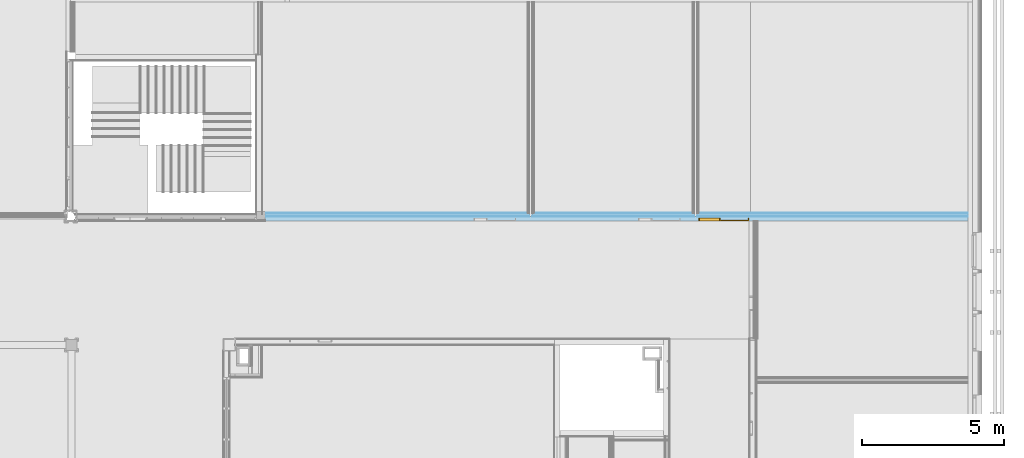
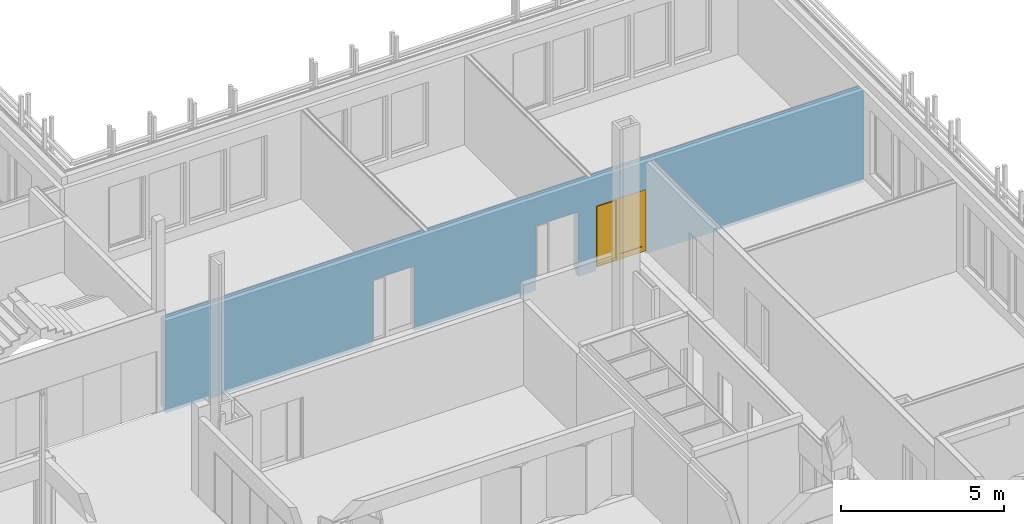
# One storey, part 68 of 139: 1 door, 3 openings, 1 element without a shape of its own, plus 7 elements that do not belong to this part.
"""IFC2X3 building model written with IfcOpenShell, lengths in millimetres."""

from ifc_helpers import new_model, entity, si_unit, converted_unit, derived_unit, money_unit, direction, frame, origin_with_axes, place, context, subcontext, project, spatial, open_shell, faceted_brep, surface_model, material, type_object, element, fill, aggregate, save


model = new_model("IFC2X3")

# Units and contexts
model_context = context("Model", 3, precision=0.01, world=origin_with_axes(), true_north=direction((0.0, 1.0)))
body_context = subcontext(model_context, "Body", "Model", "MODEL_VIEW")
ifc_project = project(units=[si_unit("LENGTHUNIT", "METRE", prefix="MILLI"), si_unit("AREAUNIT", "SQUARE_METRE"), si_unit("VOLUMEUNIT", "CUBIC_METRE"), converted_unit("PLANEANGLEUNIT", "DEGREE", entity("IfcPlaneAngleMeasure", 0.0174532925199), si_unit("PLANEANGLEUNIT", "RADIAN"), dimensions=[0, 0, 0, 0, 0, 0, 0]), money_unit("EUR"), converted_unit("TIMEUNIT", "Year", entity("IfcTimeMeasure", 31556926.0), si_unit("TIMEUNIT", "SECOND"), dimensions=[0, 0, 1, 0, 0, 0, 0]), si_unit("MASSUNIT", "GRAM", prefix="KILO"), si_unit("THERMODYNAMICTEMPERATUREUNIT", "DEGREE_CELSIUS"), si_unit("LUMINOUSINTENSITYUNIT", "LUMEN"), si_unit("ENERGYUNIT", "JOULE", prefix="MEGA"), derived_unit("THERMALCONDUCTANCEUNIT", [(si_unit("POWERUNIT", "WATT"), 1), (si_unit("LENGTHUNIT", "METRE"), -1), (si_unit("THERMODYNAMICTEMPERATUREUNIT", "KELVIN"), -1)]), derived_unit("SPECIFICHEATCAPACITYUNIT", [(si_unit("ENERGYUNIT", "JOULE"), 1), (si_unit("MASSUNIT", "GRAM", prefix="KILO"), -1), (si_unit("THERMODYNAMICTEMPERATUREUNIT", "KELVIN"), -1)]), derived_unit("MASSDENSITYUNIT", [(si_unit("MASSUNIT", "GRAM", prefix="KILO"), 1), (si_unit("VOLUMEUNIT", "CUBIC_METRE"), -1)])], contexts=[model_context])

# Site, building, storey
site_placement = place(None, origin_with_axes())
site = spatial("IfcSite", under=ifc_project, at=site_placement, Name="Kolde pst 67a", CompositionType="ELEMENT")
building_placement = place(site_placement, origin_with_axes())
building = spatial("IfcBuilding", under=site, at=building_placement, Name="Riigigümnaasium", CompositionType="ELEMENT")
storey_placement = place(building_placement, frame((0.0, 0.0, 4600.0), z_axis=(0.0, 0.0, 1.0), x_axis=(1.0, 0.0, 0.0)))
storey = spatial("IfcBuildingStorey", under=building, at=storey_placement, Name="2. korrus", CompositionType="ELEMENT", Elevation=4600.0)

# Door
door_style = type_object("IfcDoorStyle", Name="Door with Sidelight on Side 2 25", ConstructionType="NOTDEFINED", OperationType="SINGLE_SWING_LEFT", ParameterTakesPrecedence=False, Sizeable=False)
wall_placement = place(storey_placement, frame((59580.0567695, 28589.9996998, -130.0), z_axis=(0.0, 0.0, 1.0), x_axis=(1.0, 0.0, 0.0)))
opening_2_placement = place(wall_placement, frame((16119.9450194, 0.0, 130.0), z_axis=(0.0, 0.0, 1.0), x_axis=(1.0, 0.0, 0.0)))
door_placement = place(opening_2_placement, frame((890.0, 0.0, 0.0), z_axis=(0.0, 0.0, 1.0), x_axis=(-1.0, 0.0, 0.0)))
door = element("IfcDoor", 1, at=door_placement, inside=storey, type_object=door_style, Name="Siseuks", ObjectType="DOOR", OverallHeight=2300.0, OverallWidth=1780.0, context=body_context, shape_type="SurfaceModel", body=[
    faceted_brep([(1780.0, 0.0, 0.0), (1780.0, -115.0, 0.0), (1740.0, -115.0, 0.0), (1740.0, 0.0, 0.0), (1780.0, 0.0, 2260.0), (1780.0, -115.0, 2260.0), (1740.0, -115.0, 2260.0), (1740.0, -115.0, 40.0), (1740.0, 0.0, 40.0), (1740.0, 0.0, 2260.0)], [[[0, 1, 2, 3]], [[4, 5, 1, 0]], [[1, 5, 6, 7, 2]], [[3, 2, 7, 8]], [[0, 3, 8, 9, 4]], [[9, 6, 5, 4]], [[8, 7, 6, 9]]]),
    faceted_brep([(999.953334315, -40.0, 0.0), (999.953334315, -115.0, 0.0), (999.953334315, -115.0, 2260.0), (999.953334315, -40.0, 2260.0), (1011.95333432, -40.0, 0.0), (1011.95333432, 0.0, 0.0), (1039.95333432, 0.0, 0.0), (1039.95333432, -115.0, 0.0), (1039.95333432, -115.0, 40.0), (1039.95333432, -115.0, 2260.0), (1011.95333432, -40.0, 2260.0), (1039.95333432, 0.0, 2260.0), (1011.95333432, 0.0, 2260.0), (1039.95333432, 0.0, 40.0)], [[[0, 1, 2, 3]], [[4, 5, 6, 7, 1, 0]], [[7, 8, 9, 2, 1]], [[10, 3, 2, 9, 11, 12]], [[10, 4, 0, 3]], [[12, 5, 4, 10]], [[12, 11, 13, 6, 5]], [[6, 13, 8, 7]], [[13, 11, 9, 8]]]),
    faceted_brep([(1740.0, 0.0, 40.0), (1740.0, -115.0, 40.0), (1740.0, -115.0, 0.0), (1740.0, 0.0, 0.0), (1039.95333432, 0.0, 40.0), (1039.95333432, -115.0, 40.0), (1039.95333432, -115.0, 0.0), (1039.95333432, 0.0, 0.0)], [[[0, 1, 2, 3]], [[4, 5, 1, 0]], [[1, 5, 6, 2]], [[3, 2, 6, 7]], [[0, 3, 7, 4]], [[7, 6, 5, 4]]]),
    faceted_brep([(28.0, -40.0, 2260.0), (28.0, 0.0, 2260.0), (0.0, 0.0, 2260.0), (0.0, -115.0, 2260.0), (40.0, -115.0, 2260.0), (40.0, -40.0, 2260.0), (28.0, -40.0, 0.0), (28.0, 0.0, 0.0), (0.0, 0.0, 0.0), (0.0, -115.0, 0.0), (40.0, -115.0, 0.0), (40.0, -40.0, 0.0)], [[[0, 1, 2, 3, 4, 5]], [[0, 6, 7, 1]], [[7, 8, 2, 1]], [[2, 8, 9, 3]], [[3, 9, 10, 4]], [[5, 4, 10, 11]], [[5, 11, 6, 0]], [[6, 11, 10, 9, 8, 7]]]),
    faceted_brep([(1011.95333432, 0.0, 2272.0), (28.0, 0.0, 2272.0), (28.0, 0.0, 2260.0), (0.0, 0.0, 2260.0), (0.0, 0.0, 2300.0), (1780.0, 0.0, 2300.0), (1780.0, 0.0, 2260.0), (1740.0, 0.0, 2260.0), (1039.95333432, 0.0, 2260.0), (1011.95333432, 0.0, 2260.0), (1011.95333432, -40.0, 2272.0), (28.0, -40.0, 2272.0), (28.0, -40.0, 2260.0), (40.0, -40.0, 2260.0), (40.0, -115.0, 2260.0), (0.0, -115.0, 2260.0), (0.0, -115.0, 2300.0), (1780.0, -115.0, 2300.0), (1780.0, -115.0, 2260.0), (1740.0, -115.0, 2260.0), (1039.95333432, -115.0, 2260.0), (1011.95333432, -40.0, 2260.0), (999.953334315, -115.0, 2260.0)], [[[0, 1, 2, 3, 4, 5, 6, 7, 8, 9]], [[0, 10, 11, 1]], [[1, 11, 12, 2]], [[12, 13, 14, 15, 3, 2]], [[4, 3, 15, 16]], [[5, 4, 16, 17]], [[6, 5, 17, 18]], [[7, 6, 18, 19]], [[8, 7, 19, 20]], [[21, 9, 8, 20, 22, 14, 13]], [[9, 21, 10, 0]], [[12, 11, 10, 21, 13]], [[14, 22, 20, 19, 18, 17, 16, 15]]]),
    faceted_brep([(28.0, 0.0, 200.0), (128.0, 0.0, 200.0), (128.0, -40.0, 200.0), (28.0, -40.0, 200.0), (28.0, 0.0, 2172.0), (128.0, 0.0, 2172.0), (128.0, -40.0, 2172.0), (28.0, -40.0, 2172.0)], [[[0, 1, 2, 3]], [[0, 4, 5, 1]], [[1, 5, 6, 2]], [[3, 2, 6, 7]], [[4, 0, 3, 7]], [[5, 4, 7, 6]]]),
    faceted_brep([(1011.95333432, 0.0, 200.0), (1011.95333432, 0.0, 2172.0), (1011.95333432, -40.0, 2172.0), (1011.95333432, -40.0, 200.0), (911.953334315, 0.0, 200.0), (911.953334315, 0.0, 2172.0), (911.953334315, -40.0, 2172.0), (911.953334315, -40.0, 200.0)], [[[0, 1, 2, 3]], [[0, 4, 5, 1]], [[1, 5, 6, 2]], [[3, 2, 6, 7]], [[4, 0, 3, 7]], [[5, 4, 7, 6]]]),
    faceted_brep([(28.0, 0.0, 0.0), (1011.95333432, 0.0, 0.0), (1011.95333432, -40.0, 0.0), (28.0, -40.0, 0.0), (28.0, 0.0, 200.0), (128.0, 0.0, 200.0), (911.953334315, 0.0, 200.0), (1011.95333432, 0.0, 200.0), (1011.95333432, -40.0, 200.0), (911.953334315, -40.0, 200.0), (128.0, -40.0, 200.0), (28.0, -40.0, 200.0)], [[[0, 1, 2, 3]], [[0, 4, 5, 6, 7, 1]], [[1, 7, 8, 2]], [[3, 2, 8, 9, 10, 11]], [[4, 0, 3, 11]], [[5, 4, 11, 10]], [[6, 5, 10, 9]], [[7, 6, 9, 8]]]),
    faceted_brep([(28.0, 0.0, 2272.0), (28.0, 0.0, 2172.0), (28.0, -40.0, 2172.0), (28.0, -40.0, 2272.0), (1011.95333432, 0.0, 2272.0), (1011.95333432, 0.0, 2172.0), (911.953334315, 0.0, 2172.0), (128.0, 0.0, 2172.0), (128.0, -40.0, 2172.0), (911.953334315, -40.0, 2172.0), (1011.95333432, -40.0, 2172.0), (1011.95333432, -40.0, 2272.0)], [[[0, 1, 2, 3]], [[0, 4, 5, 6, 7, 1]], [[1, 7, 8, 2]], [[3, 2, 8, 9, 10, 11]], [[4, 0, 3, 11]], [[5, 4, 11, 10]], [[6, 5, 10, 9]], [[7, 6, 9, 8]]]),
    surface_model("IfcShellBasedSurfaceModel", [(128.0, -14.0, 200.0), (128.0, -14.0, 2172.0), (911.953334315, -14.0, 2172.0), (911.953334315, -14.0, 200.0)], [open_shell([[[0, 1, 2, 3]]])]),
    surface_model("IfcShellBasedSurfaceModel", [(128.0, -26.0, 200.0), (911.953334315, -26.0, 200.0), (911.953334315, -26.0, 2172.0), (128.0, -26.0, 2172.0)], [open_shell([[[0, 1, 2, 3]]])]),
    surface_model("IfcShellBasedSurfaceModel", [(1740.0, -91.0, 40.0), (1039.95333432, -91.0, 40.0), (1039.95333432, -91.0, 2260.0), (1740.0, -91.0, 2260.0)], [open_shell([[[0, 1, 2, 3]]])]),
    surface_model("IfcShellBasedSurfaceModel", [(1740.0, -103.0, 40.0), (1740.0, -103.0, 2260.0), (1039.95333432, -103.0, 2260.0), (1039.95333432, -103.0, 40.0)], [open_shell([[[0, 1, 2, 3]]])]),
])

# Wall, openings
wall_type = type_object("IfcWallType", Name="SS-CLT-16/1_vill75+krohv 52 dB 300", PredefinedType="NOTDEFINED")
wall = element("IfcWall", 2, at=wall_placement, inside=storey, type_object=wall_type, Name="Sisesein")
opening_1_placement = place(wall_placement, frame((13859.9892241, 0.0, 130.0), z_axis=(0.0, 0.0, 1.0), x_axis=(1.0, 0.0, 0.0)))
element("IfcOpeningElement", 3, at=opening_1_placement, cuts=wall, Name="Siseuks", context=body_context, shape_type="Brep", body=[
    faceted_brep([(750.0, -600.0, 2300.0), (750.0, -600.0, 0.0), (750.0, 300.0, 0.0), (750.0, 300.0, 2300.0), (-750.0, -600.0, 2300.0), (-750.0, -600.0, 0.0), (-750.0, 300.0, 0.0), (-750.0, 300.0, 2300.0)], [[[0, 1, 2, 3]], [[0, 4, 5, 1]], [[1, 5, 6, 2]], [[3, 2, 6, 7]], [[4, 0, 3, 7]], [[5, 4, 7, 6]]]),
])
opening_2 = element("IfcOpeningElement", 4, at=opening_2_placement, cuts=wall, Name="Siseuks", context=body_context, shape_type="Brep", body=[
    faceted_brep([(890.0, -600.0, 2300.0), (890.0, -600.0, 0.0), (890.0, 300.0, 0.0), (890.0, 300.0, 2300.0), (-890.0, -600.0, 2300.0), (-890.0, -600.0, 0.0), (-890.0, 300.0, 0.0), (-890.0, 300.0, 2300.0)], [[[0, 1, 2, 3]], [[0, 4, 5, 1]], [[1, 5, 6, 2]], [[3, 2, 6, 7]], [[4, 0, 3, 7]], [[5, 4, 7, 6]]]),
])

fill(opening_2, door)

# Opening
opening_3_placement = place(wall_placement, frame((8069.93597543, 0.0, 130.0), z_axis=(0.0, 0.0, 1.0), x_axis=(1.0, 0.0, 0.0)))
element("IfcOpeningElement", 5, at=opening_3_placement, cuts=wall, Name="Siseuks", context=body_context, shape_type="Brep", body=[
    faceted_brep([(750.0, -600.0, 2300.0), (750.0, -600.0, 0.0), (750.0, 300.0, 0.0), (750.0, 300.0, 2300.0), (-750.0, -600.0, 2300.0), (-750.0, -600.0, 0.0), (-750.0, 300.0, 0.0), (-750.0, 300.0, 2300.0)], [[[0, 1, 2, 3]], [[0, 4, 5, 1]], [[1, 5, 6, 2]], [[3, 2, 6, 7]], [[4, 0, 3, 7]], [[5, 4, 7, 6]]]),
])

# Building element part
ifc_material_1 = material(Name="_VIIMISTLUSKIHT - viimistlus vastavalt SA osale")
building_element_part_1_placement = place(wall_placement, origin_with_axes())
building_element_part_1 = element("IfcBuildingElementPart", 6, at=building_element_part_1_placement, material=ifc_material_1, Name="_VIIMISTLUSKIHT - viimistlus vastavalt SA osale", context=body_context, shape_type="Brep", body=[
    faceted_brep([(13109.9892241, 300.0, 2430.0), (13109.9892241, 300.0, 130.0), (9449.94161294, 300.0, 130.0), (9449.94161294, 300.0, 3450.0), (15029.9892602, 300.0, 3450.0), (15029.9892602, 300.0, 130.0), (14609.9892241, 300.0, 130.0), (14609.9892241, 300.0, 2430.0), (13109.9892241, 290.0, 2430.0), (13109.9892241, 290.0, 130.0), (9449.94161294, 290.0, 130.0), (9449.94161294, 290.0, 3450.0), (15029.9892602, 290.0, 3450.0), (15029.9892602, 290.0, 130.0), (14609.9892241, 290.0, 130.0), (14609.9892241, 290.0, 2430.0)], [[[0, 1, 2, 3, 4, 5, 6, 7]], [[1, 0, 8, 9]], [[1, 9, 10, 2]], [[3, 2, 10, 11]], [[4, 3, 11, 12]], [[12, 13, 5, 4]], [[14, 6, 5, 13]], [[7, 6, 14, 15]], [[0, 7, 15, 8]], [[15, 14, 13, 12, 11, 10, 9, 8]]]),
    faceted_brep([(7319.93597543, 300.0, 2430.0), (7319.93597543, 300.0, 130.0), (0.0, 300.0, 130.0), (0.0, 300.0, 3450.0), (9239.94161294, 300.0, 3450.0), (9239.94161294, 300.0, 130.0), (8819.93597543, 300.0, 130.0), (8819.93597543, 300.0, 2430.0), (7319.93597543, 290.0, 2430.0), (7319.93597543, 290.0, 130.0), (0.0, 290.0, 130.0), (0.0, 290.0, 3450.0), (9239.94161294, 290.0, 3450.0), (9239.94161294, 290.0, 130.0), (8819.93597543, 290.0, 130.0), (8819.93597543, 290.0, 2430.0)], [[[0, 1, 2, 3, 4, 5, 6, 7]], [[1, 0, 8, 9]], [[1, 9, 10, 2]], [[3, 2, 10, 11]], [[4, 3, 11, 12]], [[12, 13, 5, 4]], [[14, 6, 5, 13]], [[7, 6, 14, 15]], [[0, 7, 15, 8]], [[15, 14, 13, 12, 11, 10, 9, 8]]]),
    faceted_brep([(17009.9450194, 300.0, 2430.0), (15239.9892602, 300.0, 2430.0), (15239.9892602, 300.0, 3450.0), (17069.9380539, 300.0, 3450.0), (17069.9380539, 300.0, 3436.9), (24699.9425584, 300.0, 3436.9), (24699.9425584, 300.0, 130.0), (17009.9450194, 300.0, 130.0), (17009.9450194, 290.0, 2430.0), (15239.9892602, 290.0, 2430.0), (15239.9892602, 290.0, 3450.0), (17069.9380539, 290.0, 3450.0), (17069.9380539, 290.0, 3436.9), (24699.9425584, 290.0, 3436.9), (24699.9425584, 290.0, 130.0), (17009.9450194, 290.0, 130.0)], [[[0, 1, 2, 3, 4, 5, 6, 7]], [[1, 0, 8, 9]], [[1, 9, 10, 2]], [[3, 2, 10, 11]], [[11, 12, 4, 3]], [[5, 4, 12, 13]], [[13, 14, 6, 5]], [[15, 7, 6, 14]], [[0, 7, 15, 8]], [[8, 15, 14, 13, 12, 11, 10, 9]]]),
])

ifc_material_2 = material(Name="_PLAATMATERJAL - tuletõkkekipsplaat, Knauf Red GKF või samaväärne")
building_element_part_2_placement = place(wall_placement, origin_with_axes())
building_element_part_2 = element("IfcBuildingElementPart", 7, at=building_element_part_2_placement, material=ifc_material_2, Name="_PLAATMATERJAL - tuletõkkekipsplaat, Knauf Red GKF või samaväärne", context=body_context, shape_type="Brep", body=[
    faceted_brep([(13109.9892241, 290.0, 2430.0), (13109.9892241, 290.0, 130.0), (13109.9892241, 290.0, 127.0), (9434.94161294, 290.0, 127.0), (9434.94161294, 290.0, 3450.0), (15044.9892602, 290.0, 3450.0), (15044.9892602, 290.0, 127.0), (14609.9892241, 290.0, 127.0), (14609.9892241, 290.0, 130.0), (14609.9892241, 290.0, 2430.0), (13109.9892241, 275.0, 2430.0), (13109.9892241, 275.0, 130.0), (13109.9892241, 275.0, 127.0), (9434.94161294, 275.0, 127.0), (9434.94161294, 275.0, 3450.0), (15044.9892602, 275.0, 3450.0), (15044.9892602, 275.0, 127.0), (14609.9892241, 275.0, 127.0), (14609.9892241, 275.0, 130.0), (14609.9892241, 275.0, 2430.0)], [[[0, 1, 2, 3, 4, 5, 6, 7, 8, 9]], [[1, 0, 10, 11]], [[1, 11, 12, 2]], [[12, 13, 3, 2]], [[4, 3, 13, 14]], [[5, 4, 14, 15]], [[15, 16, 6, 5]], [[7, 6, 16, 17]], [[18, 8, 7, 17]], [[9, 8, 18, 19]], [[0, 9, 19, 10]], [[19, 18, 17, 16, 15, 14, 13, 12, 11, 10]]]),
    faceted_brep([(7319.93597543, 290.0, 2430.0), (7319.93597543, 290.0, 130.0), (7319.93597543, 290.0, 127.0), (0.0, 290.0, 127.0), (0.0, 290.0, 3450.0), (9254.94161294, 290.0, 3450.0), (9254.94161294, 290.0, 127.0), (8819.93597543, 290.0, 127.0), (8819.93597543, 290.0, 130.0), (8819.93597543, 290.0, 2430.0), (7319.93597543, 275.0, 2430.0), (7319.93597543, 275.0, 130.0), (7319.93597543, 275.0, 127.0), (0.0, 275.0, 127.0), (0.0, 275.0, 3450.0), (9254.94161294, 275.0, 3450.0), (9254.94161294, 275.0, 127.0), (8819.93597543, 275.0, 127.0), (8819.93597543, 275.0, 130.0), (8819.93597543, 275.0, 2430.0)], [[[0, 1, 2, 3, 4, 5, 6, 7, 8, 9]], [[1, 0, 10, 11]], [[1, 11, 12, 2]], [[12, 13, 3, 2]], [[4, 3, 13, 14]], [[5, 4, 14, 15]], [[15, 16, 6, 5]], [[7, 6, 16, 17]], [[18, 8, 7, 17]], [[9, 8, 18, 19]], [[0, 9, 19, 10]], [[19, 18, 17, 16, 15, 14, 13, 12, 11, 10]]]),
    faceted_brep([(15229.9450194, 290.0, 2430.0), (15229.9450194, 290.0, 130.0), (15229.9450194, 290.0, 127.0), (15224.9892602, 290.0, 127.0), (15224.9892602, 290.0, 3450.0), (17069.9380539, 290.0, 3450.0), (17069.9380539, 290.0, 3436.9), (24699.9425584, 290.0, 3436.9), (24699.9425584, 290.0, 127.0), (17009.9450194, 290.0, 127.0), (17009.9450194, 290.0, 130.0), (17009.9450194, 290.0, 2430.0), (15229.9450194, 275.0, 2430.0), (15229.9450194, 275.0, 130.0), (15229.9450194, 275.0, 127.0), (15224.9892602, 275.0, 127.0), (15224.9892602, 275.0, 3450.0), (17069.9380539, 275.0, 3450.0), (17069.9380539, 275.0, 3436.9), (24699.9425584, 275.0, 3436.9), (24699.9425584, 275.0, 127.0), (17009.9450194, 275.0, 127.0), (17009.9450194, 275.0, 130.0), (17009.9450194, 275.0, 2430.0)], [[[0, 1, 2, 3, 4, 5, 6, 7, 8, 9, 10, 11]], [[1, 0, 12, 13]], [[1, 13, 14, 2]], [[14, 15, 3, 2]], [[4, 3, 15, 16]], [[5, 4, 16, 17]], [[17, 18, 6, 5]], [[7, 6, 18, 19]], [[19, 20, 8, 7]], [[20, 21, 9, 8]], [[22, 10, 9, 21]], [[11, 10, 22, 23]], [[0, 11, 23, 12]], [[23, 22, 21, 20, 19, 18, 17, 16, 15, 14, 13, 12]]]),
])

building_element_part_3_placement = place(wall_placement, origin_with_axes())
building_element_part_3 = element("IfcBuildingElementPart", 8, at=building_element_part_3_placement, material=ifc_material_2, Name="_PLAATMATERJAL - tuletõkkekipsplaat, Knauf Red GKF või samaväärne", context=body_context, shape_type="Brep", body=[
    faceted_brep([(13109.9892241, 275.0, 2430.0), (13109.9892241, 275.0, 130.0), (13109.9892241, 275.0, 127.0), (9394.94161294, 275.0, 127.0), (9394.94161294, 275.0, 3450.0), (15084.9892602, 275.0, 3450.0), (15084.9892602, 275.0, 127.0), (14609.9892241, 275.0, 127.0), (14609.9892241, 275.0, 130.0), (14609.9892241, 275.0, 2430.0), (13109.9892241, 260.0, 2430.0), (13109.9892241, 260.0, 130.0), (13109.9892241, 260.0, 127.0), (9394.94161294, 260.0, 127.0), (9394.94161294, 260.0, 3450.0), (15084.9892602, 260.0, 3450.0), (15084.9892602, 260.0, 127.0), (14609.9892241, 260.0, 127.0), (14609.9892241, 260.0, 130.0), (14609.9892241, 260.0, 2430.0)], [[[0, 1, 2, 3, 4, 5, 6, 7, 8, 9]], [[1, 0, 10, 11]], [[1, 11, 12, 2]], [[12, 13, 3, 2]], [[4, 3, 13, 14]], [[5, 4, 14, 15]], [[15, 16, 6, 5]], [[7, 6, 16, 17]], [[18, 8, 7, 17]], [[9, 8, 18, 19]], [[0, 9, 19, 10]], [[19, 18, 17, 16, 15, 14, 13, 12, 11, 10]]]),
    faceted_brep([(7319.93597543, 275.0, 2430.0), (7319.93597543, 275.0, 130.0), (7319.93597543, 275.0, 127.0), (0.0, 275.0, 127.0), (0.0, 275.0, 3450.0), (9294.94161294, 275.0, 3450.0), (9294.94161294, 275.0, 127.0), (8819.93597543, 275.0, 127.0), (8819.93597543, 275.0, 130.0), (8819.93597543, 275.0, 2430.0), (7319.93597543, 260.0, 2430.0), (7319.93597543, 260.0, 130.0), (7319.93597543, 260.0, 127.0), (0.0, 260.0, 127.0), (0.0, 260.0, 3450.0), (9294.94161294, 260.0, 3450.0), (9294.94161294, 260.0, 127.0), (8819.93597543, 260.0, 127.0), (8819.93597543, 260.0, 130.0), (8819.93597543, 260.0, 2430.0)], [[[0, 1, 2, 3, 4, 5, 6, 7, 8, 9]], [[1, 0, 10, 11]], [[1, 11, 12, 2]], [[12, 13, 3, 2]], [[4, 3, 13, 14]], [[5, 4, 14, 15]], [[15, 16, 6, 5]], [[7, 6, 16, 17]], [[18, 8, 7, 17]], [[9, 8, 18, 19]], [[0, 9, 19, 10]], [[19, 18, 17, 16, 15, 14, 13, 12, 11, 10]]]),
    faceted_brep([(15229.9450194, 275.0, 2430.0), (15229.9450194, 275.0, 130.0), (15229.9450194, 275.0, 127.0), (15184.9892602, 275.0, 127.0), (15184.9892602, 275.0, 3450.0), (17069.9380539, 275.0, 3450.0), (17069.9380539, 275.0, 3436.9), (24699.9425584, 275.0, 3436.9), (24699.9425584, 275.0, 127.0), (17009.9450194, 275.0, 127.0), (17009.9450194, 275.0, 130.0), (17009.9450194, 275.0, 2430.0), (15229.9450194, 260.0, 2430.0), (15229.9450194, 260.0, 130.0), (15229.9450194, 260.0, 127.0), (15184.9892602, 260.0, 127.0), (15184.9892602, 260.0, 3450.0), (17069.9380539, 260.0, 3450.0), (17069.9380539, 260.0, 3436.9), (24699.9425584, 260.0, 3436.9), (24699.9425584, 260.0, 127.0), (17009.9450194, 260.0, 127.0), (17009.9450194, 260.0, 130.0), (17009.9450194, 260.0, 2430.0)], [[[0, 1, 2, 3, 4, 5, 6, 7, 8, 9, 10, 11]], [[1, 0, 12, 13]], [[1, 13, 14, 2]], [[14, 15, 3, 2]], [[4, 3, 15, 16]], [[5, 4, 16, 17]], [[17, 18, 6, 5]], [[7, 6, 18, 19]], [[19, 20, 8, 7]], [[20, 21, 9, 8]], [[22, 10, 9, 21]], [[11, 10, 22, 23]], [[0, 11, 23, 12]], [[23, 22, 21, 20, 19, 18, 17, 16, 15, 14, 13, 12]]]),
])

ifc_material_3 = material(Name="_PLAATMATERJAL - OSB3 plaat")
building_element_part_4_placement = place(wall_placement, origin_with_axes())
building_element_part_4 = element("IfcBuildingElementPart", 9, at=building_element_part_4_placement, material=ifc_material_3, Name="_PLAATMATERJAL - OSB3 plaat", context=body_context, shape_type="Brep", body=[
    faceted_brep([(13109.9892241, 260.0, 2430.0), (13109.9892241, 260.0, 130.0), (13109.9892241, 260.0, 127.0), (9394.94161294, 260.0, 127.0), (9394.94161294, 260.0, 3450.0), (15084.9892602, 260.0, 3450.0), (15084.9892602, 260.0, 127.0), (14609.9892241, 260.0, 127.0), (14609.9892241, 260.0, 130.0), (14609.9892241, 260.0, 2430.0), (13109.9892241, 250.0, 2430.0), (13109.9892241, 250.0, 130.0), (13109.9892241, 250.0, 127.0), (9394.94161294, 250.0, 127.0), (9394.94161294, 250.0, 3450.0), (15084.9892602, 250.0, 3450.0), (15084.9892602, 250.0, 127.0), (14609.9892241, 250.0, 127.0), (14609.9892241, 250.0, 130.0), (14609.9892241, 250.0, 2430.0)], [[[0, 1, 2, 3, 4, 5, 6, 7, 8, 9]], [[1, 0, 10, 11]], [[1, 11, 12, 2]], [[12, 13, 3, 2]], [[4, 3, 13, 14]], [[5, 4, 14, 15]], [[15, 16, 6, 5]], [[7, 6, 16, 17]], [[18, 8, 7, 17]], [[9, 8, 18, 19]], [[0, 9, 19, 10]], [[19, 18, 17, 16, 15, 14, 13, 12, 11, 10]]]),
    faceted_brep([(7319.93597543, 260.0, 2430.0), (7319.93597543, 260.0, 130.0), (7319.93597543, 260.0, 127.0), (0.0, 260.0, 127.0), (0.0, 260.0, 3450.0), (9294.94161294, 260.0, 3450.0), (9294.94161294, 260.0, 127.0), (8819.93597543, 260.0, 127.0), (8819.93597543, 260.0, 130.0), (8819.93597543, 260.0, 2430.0), (7319.93597543, 250.0, 2430.0), (7319.93597543, 250.0, 130.0), (7319.93597543, 250.0, 127.0), (0.0, 250.0, 127.0), (0.0, 250.0, 3450.0), (9294.94161294, 250.0, 3450.0), (9294.94161294, 250.0, 127.0), (8819.93597543, 250.0, 127.0), (8819.93597543, 250.0, 130.0), (8819.93597543, 250.0, 2430.0)], [[[0, 1, 2, 3, 4, 5, 6, 7, 8, 9]], [[1, 0, 10, 11]], [[1, 11, 12, 2]], [[12, 13, 3, 2]], [[4, 3, 13, 14]], [[5, 4, 14, 15]], [[15, 16, 6, 5]], [[7, 6, 16, 17]], [[18, 8, 7, 17]], [[9, 8, 18, 19]], [[0, 9, 19, 10]], [[19, 18, 17, 16, 15, 14, 13, 12, 11, 10]]]),
    faceted_brep([(15229.9450194, 260.0, 2430.0), (15229.9450194, 260.0, 130.0), (15229.9450194, 260.0, 127.0), (15184.9892602, 260.0, 127.0), (15184.9892602, 260.0, 3450.0), (17069.9380539, 260.0, 3450.0), (17069.9380539, 260.0, 3436.9), (24699.9425584, 260.0, 3436.9), (24699.9425584, 260.0, 127.0), (17009.9450194, 260.0, 127.0), (17009.9450194, 260.0, 130.0), (17009.9450194, 260.0, 2430.0), (15229.9450194, 250.0, 2430.0), (15229.9450194, 250.0, 130.0), (15229.9450194, 250.0, 127.0), (15184.9892602, 250.0, 127.0), (15184.9892602, 250.0, 3450.0), (17069.9380539, 250.0, 3450.0), (17069.9380539, 250.0, 3436.9), (24699.9425584, 250.0, 3436.9), (24699.9425584, 250.0, 127.0), (17009.9450194, 250.0, 127.0), (17009.9450194, 250.0, 130.0), (17009.9450194, 250.0, 2430.0)], [[[0, 1, 2, 3, 4, 5, 6, 7, 8, 9, 10, 11]], [[1, 0, 12, 13]], [[1, 13, 14, 2]], [[14, 15, 3, 2]], [[4, 3, 15, 16]], [[5, 4, 16, 17]], [[17, 18, 6, 5]], [[7, 6, 18, 19]], [[19, 20, 8, 7]], [[20, 21, 9, 8]], [[22, 10, 9, 21]], [[11, 10, 22, 23]], [[0, 11, 23, 12]], [[23, 22, 21, 20, 19, 18, 17, 16, 15, 14, 13, 12]]]),
])

ifc_material_4 = material(Name="_KARKASS - metallkarkass CW 75/50/06 ja UW 75/40/06, samm 600, vahel mineraalvill, helineeldetegur αw = 1.0,  ISOVER ACOUSTIC 75mm või samaväärne")
building_element_part_5_placement = place(wall_placement, origin_with_axes())
building_element_part_5 = element("IfcBuildingElementPart", 10, at=building_element_part_5_placement, material=ifc_material_4, Name="_KARKASS - metallkarkass CW 75/50/06 ja UW 75/40/06, samm 600, vahel mineraalvill, helineeldetegur αw = 1.0,  ISOVER ACOUSTIC 75mm või samaväärne", context=body_context, shape_type="Brep", body=[
    faceted_brep([(13109.9892241, 250.0, 2430.0), (13109.9892241, 250.0, 130.0), (13109.9892241, 250.0, 127.0), (9394.94161294, 250.0, 127.0), (9394.94161294, 250.0, 3450.0), (15084.9892602, 250.0, 3450.0), (15084.9892602, 250.0, 127.0), (14609.9892241, 250.0, 127.0), (14609.9892241, 250.0, 130.0), (14609.9892241, 250.0, 2430.0), (13109.9892241, 175.0, 2430.0), (13109.9892241, 175.0, 130.0), (13109.9892241, 175.0, 127.0), (9394.94161294, 175.0, 127.0), (9394.94161294, 175.0, 3450.0), (15084.9892602, 175.0, 3450.0), (15084.9892602, 175.0, 127.0), (14609.9892241, 175.0, 127.0), (14609.9892241, 175.0, 130.0), (14609.9892241, 175.0, 2430.0)], [[[0, 1, 2, 3, 4, 5, 6, 7, 8, 9]], [[1, 0, 10, 11]], [[1, 11, 12, 2]], [[12, 13, 3, 2]], [[4, 3, 13, 14]], [[5, 4, 14, 15]], [[15, 16, 6, 5]], [[7, 6, 16, 17]], [[18, 8, 7, 17]], [[9, 8, 18, 19]], [[0, 9, 19, 10]], [[19, 18, 17, 16, 15, 14, 13, 12, 11, 10]]]),
    faceted_brep([(7319.93597543, 250.0, 2430.0), (7319.93597543, 250.0, 130.0), (7319.93597543, 250.0, 127.0), (0.0, 250.0, 127.0), (0.0, 250.0, 3450.0), (9294.94161294, 250.0, 3450.0), (9294.94161294, 250.0, 127.0), (8819.93597543, 250.0, 127.0), (8819.93597543, 250.0, 130.0), (8819.93597543, 250.0, 2430.0), (7319.93597543, 175.0, 2430.0), (7319.93597543, 175.0, 130.0), (7319.93597543, 175.0, 127.0), (0.0, 175.0, 127.0), (0.0, 175.0, 3450.0), (9294.94161294, 175.0, 3450.0), (9294.94161294, 175.0, 127.0), (8819.93597543, 175.0, 127.0), (8819.93597543, 175.0, 130.0), (8819.93597543, 175.0, 2430.0)], [[[0, 1, 2, 3, 4, 5, 6, 7, 8, 9]], [[1, 0, 10, 11]], [[1, 11, 12, 2]], [[12, 13, 3, 2]], [[4, 3, 13, 14]], [[5, 4, 14, 15]], [[15, 16, 6, 5]], [[7, 6, 16, 17]], [[18, 8, 7, 17]], [[9, 8, 18, 19]], [[0, 9, 19, 10]], [[19, 18, 17, 16, 15, 14, 13, 12, 11, 10]]]),
    faceted_brep([(15229.9450194, 250.0, 2430.0), (15229.9450194, 250.0, 130.0), (15229.9450194, 250.0, 127.0), (15184.9892602, 250.0, 127.0), (15184.9892602, 250.0, 3450.0), (17069.9380539, 250.0, 3450.0), (17069.9380539, 250.0, 3436.9), (24699.9425584, 250.0, 3436.9), (24699.9425584, 250.0, 127.0), (17009.9450194, 250.0, 127.0), (17009.9450194, 250.0, 130.0), (17009.9450194, 250.0, 2430.0), (15229.9450194, 175.0, 2430.0), (15229.9450194, 175.0, 130.0), (15229.9450194, 175.0, 127.0), (15184.9892602, 175.0, 127.0), (15184.9892602, 175.0, 3450.0), (17069.9380539, 175.0, 3450.0), (17069.9380539, 175.0, 3436.9), (24699.9425584, 175.0, 3436.9), (24699.9425584, 175.0, 127.0), (17009.9450194, 175.0, 127.0), (17009.9450194, 175.0, 130.0), (17009.9450194, 175.0, 2430.0)], [[[0, 1, 2, 3, 4, 5, 6, 7, 8, 9, 10, 11]], [[1, 0, 12, 13]], [[1, 13, 14, 2]], [[14, 15, 3, 2]], [[4, 3, 15, 16]], [[5, 4, 16, 17]], [[17, 18, 6, 5]], [[7, 6, 18, 19]], [[19, 20, 8, 7]], [[20, 21, 9, 8]], [[22, 10, 9, 21]], [[11, 10, 22, 23]], [[0, 11, 23, 12]], [[23, 22, 21, 20, 19, 18, 17, 16, 15, 14, 13, 12]]]),
])

ifc_material_5 = material(Name="_ÕHKVAHE")
building_element_part_6_placement = place(wall_placement, origin_with_axes())
building_element_part_6 = element("IfcBuildingElementPart", 11, at=building_element_part_6_placement, material=ifc_material_5, Name="_ÕHKVAHE", context=body_context, shape_type="Brep", body=[
    faceted_brep([(13109.9892241, 175.0, 2430.0), (13109.9892241, 175.0, 130.0), (13109.9892241, 175.0, 127.0), (9394.94161294, 175.0, 127.0), (9394.94161294, 175.0, 3450.0), (15084.9892602, 175.0, 3450.0), (15084.9892602, 175.0, 127.0), (14609.9892241, 175.0, 127.0), (14609.9892241, 175.0, 130.0), (14609.9892241, 175.0, 2430.0), (13109.9892241, 160.0, 2430.0), (13109.9892241, 160.0, 130.0), (13109.9892241, 160.0, 127.0), (9394.94161294, 160.0, 127.0), (9394.94161294, 160.0, 3450.0), (15084.9892602, 160.0, 3450.0), (15084.9892602, 160.0, 127.0), (14609.9892241, 160.0, 127.0), (14609.9892241, 160.0, 130.0), (14609.9892241, 160.0, 2430.0)], [[[0, 1, 2, 3, 4, 5, 6, 7, 8, 9]], [[1, 0, 10, 11]], [[1, 11, 12, 2]], [[12, 13, 3, 2]], [[4, 3, 13, 14]], [[5, 4, 14, 15]], [[15, 16, 6, 5]], [[7, 6, 16, 17]], [[18, 8, 7, 17]], [[9, 8, 18, 19]], [[0, 9, 19, 10]], [[19, 18, 17, 16, 15, 14, 13, 12, 11, 10]]]),
    faceted_brep([(7319.93597543, 175.0, 2430.0), (7319.93597543, 175.0, 130.0), (7319.93597543, 175.0, 127.0), (0.0, 175.0, 127.0), (0.0, 175.0, 3450.0), (9294.94161294, 175.0, 3450.0), (9294.94161294, 175.0, 127.0), (8819.93597543, 175.0, 127.0), (8819.93597543, 175.0, 130.0), (8819.93597543, 175.0, 2430.0), (7319.93597543, 160.0, 2430.0), (7319.93597543, 160.0, 130.0), (7319.93597543, 160.0, 127.0), (0.0, 160.0, 127.0), (0.0, 160.0, 3450.0), (9294.94161294, 160.0, 3450.0), (9294.94161294, 160.0, 127.0), (8819.93597543, 160.0, 127.0), (8819.93597543, 160.0, 130.0), (8819.93597543, 160.0, 2430.0)], [[[0, 1, 2, 3, 4, 5, 6, 7, 8, 9]], [[1, 0, 10, 11]], [[1, 11, 12, 2]], [[12, 13, 3, 2]], [[4, 3, 13, 14]], [[5, 4, 14, 15]], [[15, 16, 6, 5]], [[7, 6, 16, 17]], [[18, 8, 7, 17]], [[9, 8, 18, 19]], [[0, 9, 19, 10]], [[19, 18, 17, 16, 15, 14, 13, 12, 11, 10]]]),
    faceted_brep([(15229.9450194, 175.0, 2430.0), (15229.9450194, 175.0, 130.0), (15229.9450194, 175.0, 127.0), (15184.9892602, 175.0, 127.0), (15184.9892602, 175.0, 3450.0), (17069.9380539, 175.0, 3450.0), (17069.9380539, 175.0, 3436.9), (24699.9425584, 175.0, 3436.9), (24699.9425584, 175.0, 127.0), (17009.9450194, 175.0, 127.0), (17009.9450194, 175.0, 130.0), (17009.9450194, 175.0, 2430.0), (15229.9450194, 160.0, 2430.0), (15229.9450194, 160.0, 130.0), (15229.9450194, 160.0, 127.0), (15184.9892602, 160.0, 127.0), (15184.9892602, 160.0, 3450.0), (17069.9380539, 160.0, 3450.0), (17069.9380539, 160.0, 3436.9), (24699.9425584, 160.0, 3436.9), (24699.9425584, 160.0, 127.0), (17009.9450194, 160.0, 127.0), (17009.9450194, 160.0, 130.0), (17009.9450194, 160.0, 2430.0)], [[[0, 1, 2, 3, 4, 5, 6, 7, 8, 9, 10, 11]], [[1, 0, 12, 13]], [[1, 13, 14, 2]], [[14, 15, 3, 2]], [[4, 3, 15, 16]], [[5, 4, 16, 17]], [[17, 18, 6, 5]], [[7, 6, 18, 19]], [[19, 20, 8, 7]], [[20, 21, 9, 8]], [[22, 10, 9, 21]], [[11, 10, 22, 23]], [[0, 11, 23, 12]], [[23, 22, 21, 20, 19, 18, 17, 16, 15, 14, 13, 12]]]),
])

ifc_material_6 = material(Name="_KANDETARIND - CLT ristkihtliimpuit vastavalt EK osale, CLT paigaldusvuugid teibitakse ROTHOBLAAS teibiga")
building_element_part_7_placement = place(wall_placement, origin_with_axes())
building_element_part_7 = element("IfcBuildingElementPart", 12, at=building_element_part_7_placement, material=ifc_material_6, Name="_KANDETARIND - CLT ristkihtliimpuit vastavalt EK osale, CLT paigaldusvuugid teibitakse ROTHOBLAAS teibiga", context=body_context, shape_type="Brep", body=[
    faceted_brep([(7319.93597543, 160.0, 2430.0), (7319.93597543, 160.0, 130.0), (7319.93597543, 160.0, 0.0), (0.0, 160.0, 0.0), (0.0, 160.0, 3450.0), (17069.9380539, 160.0, 3450.0), (17069.9380539, 160.0, 3436.9), (24699.9425584, 160.0, 3436.9), (24699.9425584, 160.0, 6.9), (17069.9452935, 160.0, 6.9), (17069.9452935, 160.0, 0.0), (17009.9450194, 160.0, 0.0), (17009.9450194, 160.0, 130.0), (17009.9450194, 160.0, 2430.0), (15229.9450194, 160.0, 2430.0), (15229.9450194, 160.0, 130.0), (15229.9450194, 160.0, 0.0), (14609.9892241, 160.0, 0.0), (14609.9892241, 160.0, 130.0), (14609.9892241, 160.0, 2430.0), (13109.9892241, 160.0, 2430.0), (13109.9892241, 160.0, 130.0), (13109.9892241, 160.0, 0.0), (8819.93597543, 160.0, 0.0), (8819.93597543, 160.0, 130.0), (8819.93597543, 160.0, 2430.0), (7319.93597543, 0.0, 2430.0), (7319.93597543, 0.0, 130.0), (7319.93597543, 0.0, 0.0), (0.0, 0.0, 0.0), (0.0, 0.0, 3450.0), (17069.9380539, 0.0, 3450.0), (17069.9380539, 0.0, 3436.9), (24699.9425584, 0.0, 3436.9), (24699.9425584, 0.0, 6.9), (17069.9452935, 0.0, 6.9), (17069.9452935, 0.0, 0.0), (17009.9450194, 0.0, 0.0), (17009.9450194, 0.0, 130.0), (17009.9450194, 0.0, 2430.0), (15229.9450194, 0.0, 2430.0), (15229.9450194, 0.0, 130.0), (15229.9450194, 0.0, 0.0), (14609.9892241, 0.0, 0.0), (14609.9892241, 0.0, 130.0), (14609.9892241, 0.0, 2430.0), (13109.9892241, 0.0, 2430.0), (13109.9892241, 0.0, 130.0), (13109.9892241, 0.0, 0.0), (8819.93597543, 0.0, 0.0), (8819.93597543, 0.0, 130.0), (8819.93597543, 0.0, 2430.0)], [[[0, 1, 2, 3, 4, 5, 6, 7, 8, 9, 10, 11, 12, 13, 14, 15, 16, 17, 18, 19, 20, 21, 22, 23, 24, 25]], [[1, 0, 26, 27]], [[1, 27, 28, 2]], [[3, 2, 28, 29]], [[29, 30, 4, 3]], [[30, 31, 5, 4]], [[6, 5, 31, 32]], [[32, 33, 7, 6]], [[8, 7, 33, 34]], [[35, 9, 8, 34]], [[36, 10, 9, 35]], [[11, 10, 36, 37]], [[12, 11, 37, 38]], [[12, 38, 39, 13]], [[13, 39, 40, 14]], [[14, 40, 41, 15]], [[41, 42, 16, 15]], [[17, 16, 42, 43]], [[17, 43, 44, 18]], [[44, 45, 19, 18]], [[45, 46, 20, 19]], [[46, 47, 21, 20]], [[48, 22, 21, 47]], [[23, 22, 48, 49]], [[50, 24, 23, 49]], [[25, 24, 50, 51]], [[0, 25, 51, 26]], [[51, 50, 49, 48, 47, 46, 45, 44, 43, 42, 41, 40, 39, 38, 37, 36, 35, 34, 33, 32, 31, 30, 29, 28, 27, 26]]]),
])

aggregate(wall, [building_element_part_1, building_element_part_2, building_element_part_3, building_element_part_4, building_element_part_5, building_element_part_6, building_element_part_7])

save(model, "model.ifc")
